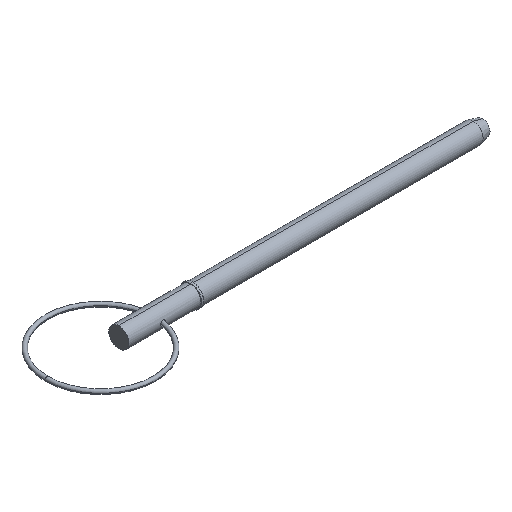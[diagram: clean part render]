
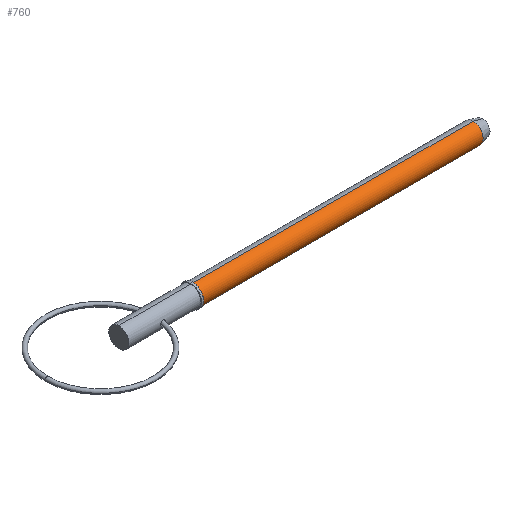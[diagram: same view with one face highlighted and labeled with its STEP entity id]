
A CAD part, isometric view. The second image highlights one B-rep face of the part: STEP entity #760.
In plain terms, the highlighted cylindrical face has radius 2.38 mm (diameter 4.76 mm), a partial arc.
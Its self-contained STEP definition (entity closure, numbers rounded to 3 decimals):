
#10 = EDGE_CURVE ( 'NONE', #55, #716, #883, .T. ) ;
#16 = CARTESIAN_POINT ( 'NONE',  ( 17.45, 0., 2.38 ) ) ;
#20 = VERTEX_POINT ( 'NONE', #382 ) ;
#54 = DIRECTION ( 'NONE',  ( 1., 0., 0. ) ) ;
#55 = VERTEX_POINT ( 'NONE', #16 ) ;
#115 = CARTESIAN_POINT ( 'NONE',  ( 83.809, 0., 0. ) ) ;
#159 = CARTESIAN_POINT ( 'NONE',  ( 17.45, 0., 0. ) ) ;
#177 = DIRECTION ( 'NONE',  ( 1., 0., 0. ) ) ;
#185 = ORIENTED_EDGE ( 'NONE', *, *, #10, .T. ) ;
#196 = LINE ( 'NONE', #723, #752 ) ;
#200 = CARTESIAN_POINT ( 'NONE',  ( 0., 0., 0. ) ) ;
#320 = EDGE_CURVE ( 'NONE', #55, #20, #196, .T. ) ;
#322 = DIRECTION ( 'NONE',  ( 1., 0., 0. ) ) ;
#333 = DIRECTION ( 'NONE',  ( 0., 0., -1. ) ) ;
#348 = LINE ( 'NONE', #352, #573 ) ;
#352 = CARTESIAN_POINT ( 'NONE',  ( 0., 0., -2.38 ) ) ;
#353 = EDGE_CURVE ( 'NONE', #716, #599, #348, .T. ) ;
#356 = ORIENTED_EDGE ( 'NONE', *, *, #353, .T. ) ;
#382 = CARTESIAN_POINT ( 'NONE',  ( 83.809, 0., 2.38 ) ) ;
#417 = EDGE_LOOP ( 'NONE', ( #604, #185, #356, #942 ) ) ;
#486 = DIRECTION ( 'NONE',  ( 0., 0., -1. ) ) ;
#552 = CARTESIAN_POINT ( 'NONE',  ( 17.45, 0., -2.38 ) ) ;
#573 = VECTOR ( 'NONE', #936, 1000. ) ;
#585 = DIRECTION ( 'NONE',  ( 0., 0., -1. ) ) ;
#599 = VERTEX_POINT ( 'NONE', #676 ) ;
#604 = ORIENTED_EDGE ( 'NONE', *, *, #320, .F. ) ;
#676 = CARTESIAN_POINT ( 'NONE',  ( 83.809, 0., -2.38 ) ) ;
#682 = AXIS2_PLACEMENT_3D ( 'NONE', #200, #177, #486 ) ;
#695 = FACE_OUTER_BOUND ( 'NONE', #417, .T. ) ;
#716 = VERTEX_POINT ( 'NONE', #552 ) ;
#723 = CARTESIAN_POINT ( 'NONE',  ( 0., 0., 2.38 ) ) ;
#752 = VECTOR ( 'NONE', #54, 1000. ) ;
#753 = AXIS2_PLACEMENT_3D ( 'NONE', #115, #322, #333 ) ;
#760 = ADVANCED_FACE ( 'NONE', ( #695 ), #839, .T. ) ;
#833 = AXIS2_PLACEMENT_3D ( 'NONE', #159, #953, #585 ) ;
#835 = CIRCLE ( 'NONE', #753, 2.38 ) ;
#839 = CYLINDRICAL_SURFACE ( 'NONE', #682, 2.38 ) ;
#876 = EDGE_CURVE ( 'NONE', #20, #599, #835, .T. ) ;
#883 = CIRCLE ( 'NONE', #833, 2.38 ) ;
#936 = DIRECTION ( 'NONE',  ( 1., 0., 0. ) ) ;
#942 = ORIENTED_EDGE ( 'NONE', *, *, #876, .F. ) ;
#953 = DIRECTION ( 'NONE',  ( 1., 0., 0. ) ) ;
